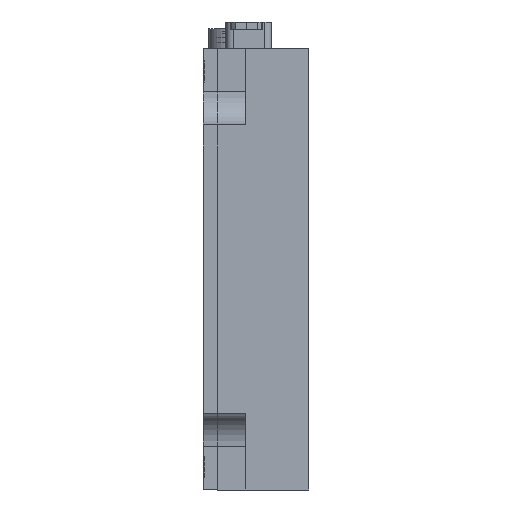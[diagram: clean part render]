
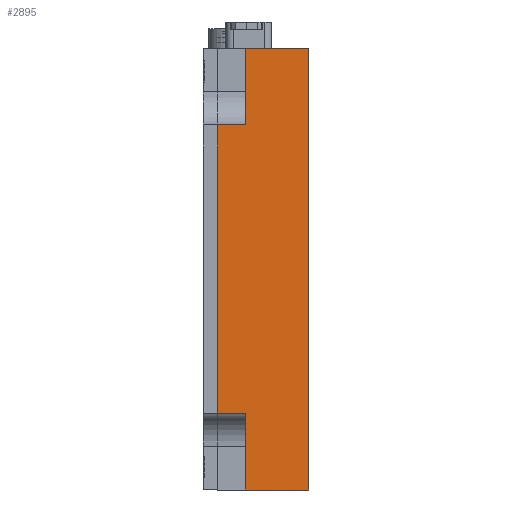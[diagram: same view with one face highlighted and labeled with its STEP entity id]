
A CAD part, left-side view. The second image highlights one B-rep face of the part: STEP entity #2895.
In plain terms, the highlighted planar face has unit normal (-1, 0, 0).
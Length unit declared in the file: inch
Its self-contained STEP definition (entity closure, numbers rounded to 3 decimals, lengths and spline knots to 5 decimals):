
#147 = ORIENTED_EDGE ( 'NONE', *, *, #13612, .T. ) ;
#154 = ORIENTED_EDGE ( 'NONE', *, *, #13918, .F. ) ;
#155 = ORIENTED_EDGE ( 'NONE', *, *, #13573, .T. ) ;
#160 = ORIENTED_EDGE ( 'NONE', *, *, #13580, .T. ) ;
#525 = EDGE_LOOP ( 'NONE', ( #19490, #19586, #19735, #155, #160, #19492, #154, #147 ) ) ;
#2895 = ADVANCED_FACE ( 'NONE', ( #5873 ), #10497, .F. ) ;
#4028 = LINE ( 'NONE', #7690, #4043 ) ;
#4040 = LINE ( 'NONE', #7665, #4047 ) ;
#4042 = LINE ( 'NONE', #7657, #4045 ) ;
#4043 = VECTOR ( 'NONE', #7653, 39.37008 ) ;
#4045 = VECTOR ( 'NONE', #8408, 39.37008 ) ;
#4046 = LINE ( 'NONE', #7647, #4049 ) ;
#4047 = VECTOR ( 'NONE', #8470, 39.37008 ) ;
#4048 = LINE ( 'NONE', #7645, #4051 ) ;
#4049 = VECTOR ( 'NONE', #7646, 39.37008 ) ;
#4051 = VECTOR ( 'NONE', #7644, 39.37008 ) ;
#4056 = LINE ( 'NONE', #7637, #4059 ) ;
#4059 = VECTOR ( 'NONE', #7636, 39.37008 ) ;
#4089 = LINE ( 'NONE', #8340, #4093 ) ;
#4093 = VECTOR ( 'NONE', #8166, 39.37008 ) ;
#4340 = LINE ( 'NONE', #17873, #4344 ) ;
#4344 = VECTOR ( 'NONE', #17874, 39.37008 ) ;
#4445 = VERTEX_POINT ( 'NONE', #14655 ) ;
#4640 = VERTEX_POINT ( 'NONE', #14725 ) ;
#4699 = VERTEX_POINT ( 'NONE', #15308 ) ;
#4791 = VERTEX_POINT ( 'NONE', #15384 ) ;
#4804 = VERTEX_POINT ( 'NONE', #15974 ) ;
#4812 = VERTEX_POINT ( 'NONE', #15945 ) ;
#4860 = VERTEX_POINT ( 'NONE', #15621 ) ;
#4951 = VERTEX_POINT ( 'NONE', #16076 ) ;
#5873 = FACE_OUTER_BOUND ( 'NONE', #525, .T. ) ;
#7636 = DIRECTION ( 'NONE',  ( 0., 0., 1. ) ) ;
#7637 = CARTESIAN_POINT ( 'NONE',  ( -1.7, 0., -1.25 ) ) ;
#7644 = DIRECTION ( 'NONE',  ( 0., 0., 1. ) ) ;
#7645 = CARTESIAN_POINT ( 'NONE',  ( -1.7, 0.26, -1.25 ) ) ;
#7646 = DIRECTION ( 'NONE',  ( 0., 1., 0. ) ) ;
#7647 = CARTESIAN_POINT ( 'NONE',  ( -1.7, 0.18, -1.0335 ) ) ;
#7653 = DIRECTION ( 'NONE',  ( 0., -1., 0. ) ) ;
#7657 = CARTESIAN_POINT ( 'NONE',  ( -1.7, 0.26, -1.25 ) ) ;
#7665 = CARTESIAN_POINT ( 'NONE',  ( -1.7, 0.18, -1.0335 ) ) ;
#7690 = CARTESIAN_POINT ( 'NONE',  ( -1.7, 0.26, 0. ) ) ;
#8166 = DIRECTION ( 'NONE',  ( 0., 1., 0. ) ) ;
#8340 = CARTESIAN_POINT ( 'NONE',  ( -1.7, 0.18, -0.2165 ) ) ;
#8408 = DIRECTION ( 'NONE',  ( 0., -1., 0. ) ) ;
#8470 = DIRECTION ( 'NONE',  ( 0., 0., 1. ) ) ;
#10480 = CARTESIAN_POINT ( 'NONE',  ( -1.7, 0.26, -1.25 ) ) ;
#10497 = PLANE ( 'NONE',  #12011 ) ;
#10501 = DIRECTION ( 'NONE',  ( 1., 0., 0. ) ) ;
#10504 = DIRECTION ( 'NONE',  ( 0., 0., -1. ) ) ;
#12011 = AXIS2_PLACEMENT_3D ( 'NONE', #10480, #10501, #10504 ) ;
#13572 = EDGE_CURVE ( 'NONE', #4791, #4640, #4028, .T. ) ;
#13573 = EDGE_CURVE ( 'NONE', #4860, #4804, #4042, .T. ) ;
#13574 = EDGE_CURVE ( 'NONE', #4860, #4951, #4040, .T. ) ;
#13575 = EDGE_CURVE ( 'NONE', #4951, #4445, #4046, .T. ) ;
#13576 = EDGE_CURVE ( 'NONE', #4445, #4812, #4048, .T. ) ;
#13580 = EDGE_CURVE ( 'NONE', #4804, #4640, #4056, .T. ) ;
#13612 = EDGE_CURVE ( 'NONE', #4699, #4812, #4089, .T. ) ;
#13918 = EDGE_CURVE ( 'NONE', #4699, #4791, #4340, .T. ) ;
#14655 = CARTESIAN_POINT ( 'NONE',  ( -1.7, 0.26, -1.0335 ) ) ;
#14725 = CARTESIAN_POINT ( 'NONE',  ( -1.7, 0., 0. ) ) ;
#15308 = CARTESIAN_POINT ( 'NONE',  ( -1.7, 0.18, -0.2165 ) ) ;
#15384 = CARTESIAN_POINT ( 'NONE',  ( -1.7, 0.18, 0. ) ) ;
#15621 = CARTESIAN_POINT ( 'NONE',  ( -1.7, 0.18, -1.25 ) ) ;
#15945 = CARTESIAN_POINT ( 'NONE',  ( -1.7, 0.26, -0.2165 ) ) ;
#15974 = CARTESIAN_POINT ( 'NONE',  ( -1.7, 0., -1.25 ) ) ;
#16076 = CARTESIAN_POINT ( 'NONE',  ( -1.7, 0.18, -1.0335 ) ) ;
#17873 = CARTESIAN_POINT ( 'NONE',  ( -1.7, 0.18, -0.2165 ) ) ;
#17874 = DIRECTION ( 'NONE',  ( 0., 0., 1. ) ) ;
#19490 = ORIENTED_EDGE ( 'NONE', *, *, #13576, .F. ) ;
#19492 = ORIENTED_EDGE ( 'NONE', *, *, #13572, .F. ) ;
#19586 = ORIENTED_EDGE ( 'NONE', *, *, #13575, .F. ) ;
#19735 = ORIENTED_EDGE ( 'NONE', *, *, #13574, .F. ) ;
